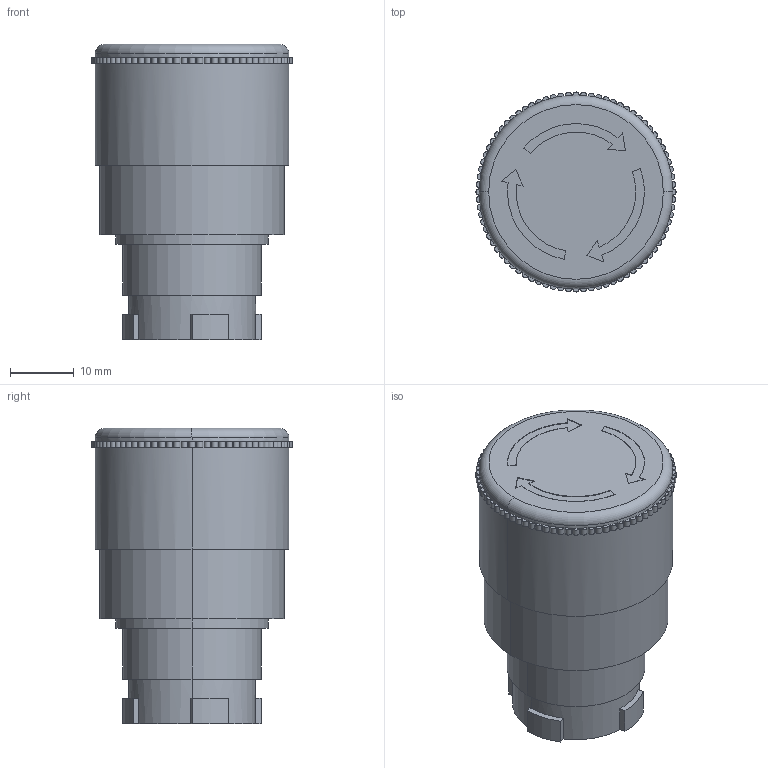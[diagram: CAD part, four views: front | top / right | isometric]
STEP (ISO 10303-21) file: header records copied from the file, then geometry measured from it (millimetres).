
FILE_DESCRIPTION (( 'STEP AP214' ), '1' );
FILE_NAME ('3D 斁麧錪 MTB2-BS44.STEP', '2017-05-19T12:06:52', ( 'adm' ), ( 'MICROSOFT' ), 'SwSTEP 2.0', 'SolidWorks 2011', '' );
FILE_SCHEMA (( 'AUTOMOTIVE_DESIGN' ));
Length unit declared in the file: millimetre
Products named in the file (1): 3D 斁麧錪 MTB2-BS44
Bounding box: 31.5 x 31.5 x 46.5 mm (x, y, z)
Volume: 26376.5 mm3; surface area: 6844.9 mm2
Topology: 1 solids, 2 shells, 494 faces, 1195 edges, 796 vertices
Faces by surface type: cylinder 276, plane 216, torus 2
Entity records: 20301 total; most frequent: DIRECTION 2913, CARTESIAN_POINT 2486, ORIENTED_EDGE 2390, AXIS2_PLACEMENT_3D 1223, EDGE_CURVE 1195, VERTEX_POINT 796, CIRCLE 728, EDGE_LOOP 587
